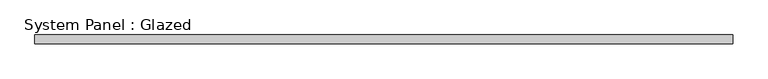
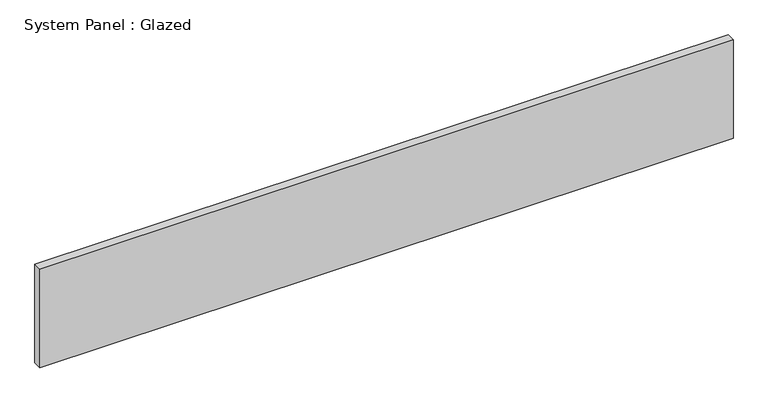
"""IFC4 building model written with IfcOpenShell, lengths in millimetres: plate geometry, System Panel : Glazed."""

from ifc_helpers import new_model, si_unit, origin, origin_with_axes, place, context, project, spatial, polyline, outline, extrude, source, transform, mapped, element, save


def system_panel_glazed_78f5b605(model_context):
    return source(origin(), model_context, "Body", "SweptSolid", [
        extrude(outline(polyline([(1000.0, 24.5), (-1000.0, 24.5), (-1000.0, 49.5), (1000.0, 49.5), (1000.0, 24.5)])), origin_with_axes(), (0.0, 0.0, 1.0), 300.0),
    ])


if __name__ == "__main__":
    model = new_model("IFC4")
    model_context = context("Model", 3, world=origin())
    ifc_project = project(units=[si_unit("LENGTHUNIT", "METRE", prefix="MILLI")], contexts=[model_context])
    site = spatial("IfcSite", under=ifc_project)
    building = spatial("IfcBuilding", under=site)
    placement = place(None, origin())
    system_panel_glazed_shape = system_panel_glazed_78f5b605(model_context)
    element("IfcPlate", 1, ObjectType="System Panel : Glazed", at=placement, inside=building, context=model_context, shape_type="MappedRepresentation", body=[
        mapped(system_panel_glazed_shape, transform((0.0, 0.0, 0.0), x_axis=(1.0, 0.0, 0.0), y_axis=(0.0, 1.0, 0.0), z_axis=(0.0, 0.0, 1.0))),
    ])
    save(model, "model.ifc")
